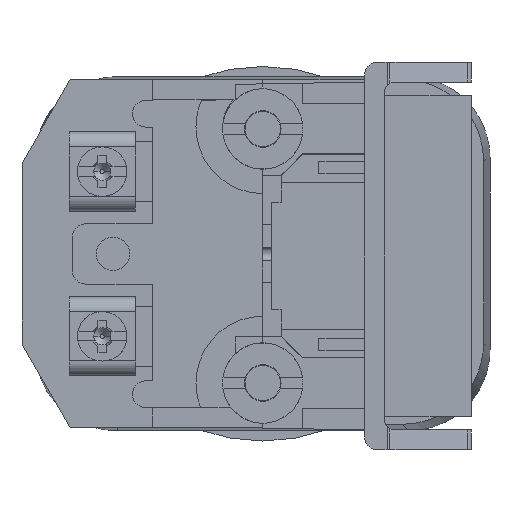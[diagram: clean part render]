
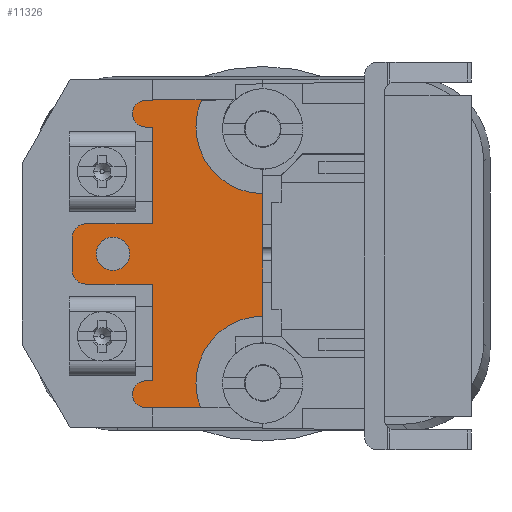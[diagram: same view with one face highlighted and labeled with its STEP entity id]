
A CAD part, front view. The second image highlights one B-rep face of the part: STEP entity #11326.
In plain terms, the highlighted planar face has unit normal (0, -1, 0) as drawn and (0, 1, 0) by its records, which use the part's own axes.
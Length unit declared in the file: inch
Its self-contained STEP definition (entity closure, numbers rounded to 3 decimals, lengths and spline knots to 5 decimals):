
#8999=DIRECTION('',(-1.,0.,0.));
#9000=VECTOR('',#8999,0.313);
#9001=CARTESIAN_POINT('',(0.828,1.125,-0.1415));
#9002=LINE('',#9001,#9000);
#9003=DIRECTION('',(0.,0.,1.));
#9004=VECTOR('',#9003,0.4525);
#9005=CARTESIAN_POINT('',(0.515,1.125,0.1395));
#9006=LINE('',#9005,#9004);
#9007=CARTESIAN_POINT('',(0.548,1.125,0.652));
#9008=DIRECTION('',(0.,-1.,0.));
#9009=DIRECTION('',(0.,0.,-1.));
#9010=AXIS2_PLACEMENT_3D('',#9007,#9008,#9009);
#9012=CARTESIAN_POINT('',(0.548,1.125,0.657));
#9013=DIRECTION('',(0.,-1.,0.));
#9014=DIRECTION('',(1.,0.,0.));
#9015=AXIS2_PLACEMENT_3D('',#9012,#9013,#9014);
#9017=DIRECTION('',(0.,0.,1.));
#9018=VECTOR('',#9017,0.003);
#9019=CARTESIAN_POINT('',(0.515,1.125,0.717));
#9020=LINE('',#9019,#9018);
#9021=DIRECTION('',(1.,0.,-0.02));
#9022=VECTOR('',#9021,0.14907);
#9023=CARTESIAN_POINT('',(0.13726,1.125,0.72));
#9024=LINE('',#9023,#9022);
#9025=CARTESIAN_POINT('',(0.,1.125,0.593));
#9026=DIRECTION('',(0.,1.,0.));
#9027=DIRECTION('',(0.918,0.,0.397));
#9028=AXIS2_PLACEMENT_3D('',#9025,#9026,#9027);
#9030=CARTESIAN_POINT('',(0.,1.125,0.593));
#9031=DIRECTION('',(0.,1.,0.));
#9032=DIRECTION('',(1.,0.,0.));
#9033=AXIS2_PLACEMENT_3D('',#9030,#9031,#9032);
#9035=DIRECTION('',(0.,0.,-1.));
#9036=VECTOR('',#9035,0.573);
#9037=CARTESIAN_POINT('',(0.,1.125,0.281));
#9038=LINE('',#9037,#9036);
#9039=CARTESIAN_POINT('',(0.,1.125,-0.604));
#9040=DIRECTION('',(0.,1.,0.));
#9041=DIRECTION('',(0.,0.,1.));
#9042=AXIS2_PLACEMENT_3D('',#9039,#9040,#9041);
#9044=CARTESIAN_POINT('',(0.,1.125,-0.604));
#9045=DIRECTION('',(0.,1.,0.));
#9046=DIRECTION('',(1.,0.,0.));
#9047=AXIS2_PLACEMENT_3D('',#9044,#9045,#9046);
#9049=DIRECTION('',(1.,0.,0.));
#9050=VECTOR('',#9049,0.25797);
#9051=CARTESIAN_POINT('',(0.29003,1.125,-0.719));
#9052=LINE('',#9051,#9050);
#9053=CARTESIAN_POINT('',(0.548,1.125,-0.659));
#9054=DIRECTION('',(0.,-1.,0.));
#9055=DIRECTION('',(0.,0.,-1.));
#9056=AXIS2_PLACEMENT_3D('',#9053,#9054,#9055);
#9058=CARTESIAN_POINT('',(0.548,1.125,-0.654));
#9059=DIRECTION('',(0.,-1.,0.));
#9060=DIRECTION('',(1.,0.,0.));
#9061=AXIS2_PLACEMENT_3D('',#9058,#9059,#9060);
#9063=DIRECTION('',(0.,0.,1.));
#9064=VECTOR('',#9063,0.4525);
#9065=CARTESIAN_POINT('',(0.515,1.125,-0.594));
#9066=LINE('',#9065,#9064);
#9067=CARTESIAN_POINT('',(0.828,1.125,-0.0795));
#9068=DIRECTION('',(0.,-1.,0.));
#9069=DIRECTION('',(0.,0.,-1.));
#9070=AXIS2_PLACEMENT_3D('',#9067,#9068,#9069);
#9072=CARTESIAN_POINT('',(0.828,1.125,0.0775));
#9073=DIRECTION('',(0.,-1.,0.));
#9074=DIRECTION('',(1.,0.,0.));
#9075=AXIS2_PLACEMENT_3D('',#9072,#9073,#9074);
#9077=CARTESIAN_POINT('',(0.7,1.125,0.));
#9078=DIRECTION('',(0.,1.,0.));
#9079=DIRECTION('',(1.,0.,0.));
#9080=AXIS2_PLACEMENT_3D('',#9077,#9078,#9079);
#9082=CARTESIAN_POINT('',(0.7,1.125,0.));
#9083=DIRECTION('',(0.,1.,0.));
#9084=DIRECTION('',(-1.,0.,0.));
#9085=AXIS2_PLACEMENT_3D('',#9082,#9083,#9084);
#9521=DIRECTION('',(-1.,0.,0.));
#9522=VECTOR('',#9521,0.033);
#9523=CARTESIAN_POINT('',(0.548,1.125,0.592));
#9524=LINE('',#9523,#9522);
#9533=DIRECTION('',(0.,0.,-1.));
#9534=VECTOR('',#9533,0.005);
#9535=CARTESIAN_POINT('',(0.608,1.125,0.657));
#9536=LINE('',#9535,#9534);
#9545=DIRECTION('',(1.,0.,0.));
#9546=VECTOR('',#9545,0.033);
#9547=CARTESIAN_POINT('',(0.515,1.125,0.717));
#9548=LINE('',#9547,#9546);
#9657=DIRECTION('',(1.,0.,0.));
#9658=VECTOR('',#9657,0.37774);
#9659=CARTESIAN_POINT('',(0.13726,1.125,0.72));
#9660=LINE('',#9659,#9658);
#9689=DIRECTION('',(1.,0.,0.));
#9690=VECTOR('',#9689,0.313);
#9691=CARTESIAN_POINT('',(0.515,1.125,0.1395));
#9692=LINE('',#9691,#9690);
#9705=DIRECTION('',(0.,0.,-1.));
#9706=VECTOR('',#9705,0.157);
#9707=CARTESIAN_POINT('',(0.89,1.125,0.0775));
#9708=LINE('',#9707,#9706);
#9769=DIRECTION('',(0.,0.,-1.));
#9770=VECTOR('',#9769,0.005);
#9771=CARTESIAN_POINT('',(0.608,1.125,-0.654));
#9772=LINE('',#9771,#9770);
#9781=DIRECTION('',(1.,0.,0.));
#9782=VECTOR('',#9781,0.033);
#9783=CARTESIAN_POINT('',(0.515,1.125,-0.594));
#9784=LINE('',#9783,#9782);
#10487=CARTESIAN_POINT('',(0.515,1.125,-0.1415));
#10488=VERTEX_POINT('',#10487);
#10489=CARTESIAN_POINT('',(0.515,1.125,-0.594));
#10490=VERTEX_POINT('',#10489);
#10491=CARTESIAN_POINT('',(0.828,1.125,-0.1415));
#10492=VERTEX_POINT('',#10491);
#10493=CARTESIAN_POINT('',(0.515,1.125,0.1395));
#10494=CARTESIAN_POINT('',(0.515,1.125,0.592));
#10495=VERTEX_POINT('',#10493);
#10496=VERTEX_POINT('',#10494);
#10497=CARTESIAN_POINT('',(0.548,1.125,0.592));
#10498=VERTEX_POINT('',#10497);
#10499=CARTESIAN_POINT('',(0.608,1.125,0.652));
#10500=VERTEX_POINT('',#10499);
#10501=CARTESIAN_POINT('',(0.608,1.125,0.657));
#10502=VERTEX_POINT('',#10501);
#10503=CARTESIAN_POINT('',(0.548,1.125,0.717));
#10504=VERTEX_POINT('',#10503);
#10505=CARTESIAN_POINT('',(0.515,1.125,0.717));
#10506=VERTEX_POINT('',#10505);
#10507=CARTESIAN_POINT('',(0.515,1.125,0.72));
#10508=VERTEX_POINT('',#10507);
#10509=CARTESIAN_POINT('',(0.13726,1.125,0.72));
#10510=VERTEX_POINT('',#10509);
#10511=CARTESIAN_POINT('',(0.2863,1.125,0.717));
#10512=VERTEX_POINT('',#10511);
#10513=CARTESIAN_POINT('',(0.312,1.125,0.593));
#10514=VERTEX_POINT('',#10513);
#10515=CARTESIAN_POINT('',(0.,1.125,0.281));
#10516=VERTEX_POINT('',#10515);
#10517=CARTESIAN_POINT('',(0.,1.125,-0.292));
#10518=VERTEX_POINT('',#10517);
#10519=CARTESIAN_POINT('',(0.312,1.125,-0.604));
#10520=VERTEX_POINT('',#10519);
#10521=CARTESIAN_POINT('',(0.29003,1.125,-0.719));
#10522=VERTEX_POINT('',#10521);
#10523=CARTESIAN_POINT('',(0.548,1.125,-0.719));
#10524=VERTEX_POINT('',#10523);
#10525=CARTESIAN_POINT('',(0.608,1.125,-0.659));
#10526=VERTEX_POINT('',#10525);
#10527=CARTESIAN_POINT('',(0.608,1.125,-0.654));
#10528=VERTEX_POINT('',#10527);
#10529=CARTESIAN_POINT('',(0.548,1.125,-0.594));
#10530=VERTEX_POINT('',#10529);
#10531=CARTESIAN_POINT('',(0.89,1.125,-0.0795));
#10532=VERTEX_POINT('',#10531);
#10533=CARTESIAN_POINT('',(0.89,1.125,0.0775));
#10534=VERTEX_POINT('',#10533);
#10535=CARTESIAN_POINT('',(0.828,1.125,0.1395));
#10536=VERTEX_POINT('',#10535);
#10537=CARTESIAN_POINT('',(0.778,1.125,0.));
#10538=CARTESIAN_POINT('',(0.622,1.125,0.));
#10539=VERTEX_POINT('',#10537);
#10540=VERTEX_POINT('',#10538);
#11266=CARTESIAN_POINT('',(0.,1.125,0.));
#11267=DIRECTION('',(0.,1.,0.));
#11268=DIRECTION('',(1.,0.,0.));
#11269=AXIS2_PLACEMENT_3D('',#11266,#11267,#11268);
#11270=PLANE('',#11269);
#11272=ORIENTED_EDGE('',*,*,#11271,.T.);
#11274=ORIENTED_EDGE('',*,*,#11273,.F.);
#11276=ORIENTED_EDGE('',*,*,#11275,.T.);
#11278=ORIENTED_EDGE('',*,*,#11277,.F.);
#11280=ORIENTED_EDGE('',*,*,#11279,.T.);
#11282=ORIENTED_EDGE('',*,*,#11281,.F.);
#11284=ORIENTED_EDGE('',*,*,#11283,.T.);
#11286=ORIENTED_EDGE('',*,*,#11285,.F.);
#11288=ORIENTED_EDGE('',*,*,#11287,.T.);
#11290=ORIENTED_EDGE('',*,*,#11289,.T.);
#11292=ORIENTED_EDGE('',*,*,#11291,.T.);
#11293=ORIENTED_EDGE('',*,*,#10834,.T.);
#11295=ORIENTED_EDGE('',*,*,#11294,.T.);
#11297=ORIENTED_EDGE('',*,*,#11296,.T.);
#11299=ORIENTED_EDGE('',*,*,#11298,.T.);
#11301=ORIENTED_EDGE('',*,*,#11300,.T.);
#11303=ORIENTED_EDGE('',*,*,#11302,.F.);
#11305=ORIENTED_EDGE('',*,*,#11304,.T.);
#11307=ORIENTED_EDGE('',*,*,#11306,.F.);
#11308=ORIENTED_EDGE('',*,*,#11243,.T.);
#11309=ORIENTED_EDGE('',*,*,#11257,.F.);
#11311=ORIENTED_EDGE('',*,*,#11310,.T.);
#11313=ORIENTED_EDGE('',*,*,#11312,.F.);
#11315=ORIENTED_EDGE('',*,*,#11314,.T.);
#11317=ORIENTED_EDGE('',*,*,#11316,.F.);
#11318=EDGE_LOOP('',(#11272,#11274,#11276,#11278,#11280,#11282,#11284,#11286,
#11288,#11290,#11292,#11293,#11295,#11297,#11299,#11301,#11303,#11305,#11307,
#11308,#11309,#11311,#11313,#11315,#11317));
#11319=FACE_OUTER_BOUND('',#11318,.F.);
#11321=ORIENTED_EDGE('',*,*,#11320,.T.);
#11323=ORIENTED_EDGE('',*,*,#11322,.T.);
#11324=EDGE_LOOP('',(#11321,#11323));
#11325=FACE_BOUND('',#11324,.F.);
#11326=ADVANCED_FACE('',(#11319,#11325),#11270,.T.);
#9011=CIRCLE('',#9010,0.06);
#9016=CIRCLE('',#9015,0.06);
#9029=CIRCLE('',#9028,0.312);
#9034=CIRCLE('',#9033,0.312);
#9043=CIRCLE('',#9042,0.312);
#9048=CIRCLE('',#9047,0.312);
#9057=CIRCLE('',#9056,0.06);
#9062=CIRCLE('',#9061,0.06);
#9071=CIRCLE('',#9070,0.062);
#9076=CIRCLE('',#9075,0.062);
#9081=CIRCLE('',#9080,0.078);
#9086=CIRCLE('',#9085,0.078);
#10834=EDGE_CURVE('',#10516,#10518,#9038,.T.);
#11243=EDGE_CURVE('',#10490,#10488,#9066,.T.);
#11257=EDGE_CURVE('',#10492,#10488,#9002,.T.);
#11271=EDGE_CURVE('',#10495,#10496,#9006,.T.);
#11273=EDGE_CURVE('',#10498,#10496,#9524,.T.);
#11275=EDGE_CURVE('',#10498,#10500,#9011,.T.);
#11277=EDGE_CURVE('',#10502,#10500,#9536,.T.);
#11279=EDGE_CURVE('',#10502,#10504,#9016,.T.);
#11281=EDGE_CURVE('',#10506,#10504,#9548,.T.);
#11283=EDGE_CURVE('',#10506,#10508,#9020,.T.);
#11285=EDGE_CURVE('',#10510,#10508,#9660,.T.);
#11287=EDGE_CURVE('',#10510,#10512,#9024,.T.);
#11289=EDGE_CURVE('',#10512,#10514,#9029,.T.);
#11291=EDGE_CURVE('',#10514,#10516,#9034,.T.);
#11294=EDGE_CURVE('',#10518,#10520,#9043,.T.);
#11296=EDGE_CURVE('',#10520,#10522,#9048,.T.);
#11298=EDGE_CURVE('',#10522,#10524,#9052,.T.);
#11300=EDGE_CURVE('',#10524,#10526,#9057,.T.);
#11302=EDGE_CURVE('',#10528,#10526,#9772,.T.);
#11304=EDGE_CURVE('',#10528,#10530,#9062,.T.);
#11306=EDGE_CURVE('',#10490,#10530,#9784,.T.);
#11310=EDGE_CURVE('',#10492,#10532,#9071,.T.);
#11312=EDGE_CURVE('',#10534,#10532,#9708,.T.);
#11314=EDGE_CURVE('',#10534,#10536,#9076,.T.);
#11316=EDGE_CURVE('',#10495,#10536,#9692,.T.);
#11320=EDGE_CURVE('',#10539,#10540,#9081,.T.);
#11322=EDGE_CURVE('',#10540,#10539,#9086,.T.);
